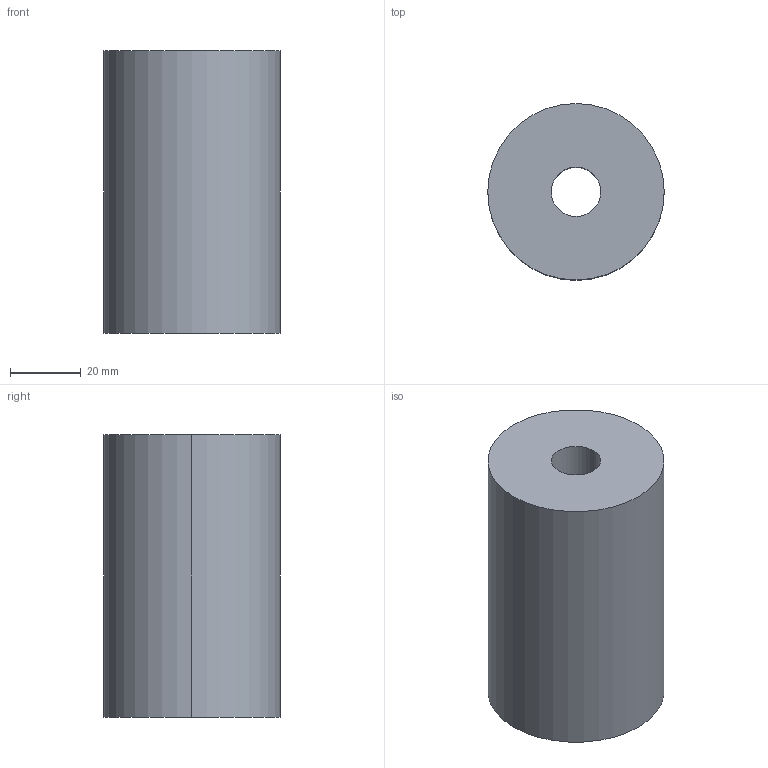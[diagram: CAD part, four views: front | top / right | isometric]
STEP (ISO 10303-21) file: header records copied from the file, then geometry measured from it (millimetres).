
FILE_DESCRIPTION(/* description */ (''),/* implementation_level */ '2;1');
FILE_NAME(/* name */ '3d_pa50-80_04900_r00.stp',/* time_stamp */ '2011-01-10T14:11:58+09:00',/* author */ ('MISUMI'),/* organization */ (''),/* preprocessor_version */ 'ST-DEVELOPER v11',/* originating_system */ 'UGS - NX 5.0',/* authorisation */ '');
FILE_SCHEMA (('CONFIG_CONTROL_DESIGN'));
Length unit declared in the file: millimetre
Products named in the file (1): 3d_pa50-80_04900_r00
Bounding box: 50 x 50 x 80 mm (x, y, z)
Volume: 144764.6 mm3; surface area: 19704.1 mm2
Topology: 1 solids, 1 shells, 6 faces, 12 edges, 8 vertices
Faces by surface type: cylinder 4, plane 2
Entity records: 254 total; most frequent: DIRECTION 34, CARTESIAN_POINT 27, ORIENTED_EDGE 24, AXIS2_PLACEMENT_3D 15, EDGE_CURVE 12, EDGE_LOOP 8, VERTEX_POINT 8, CIRCLE 8
